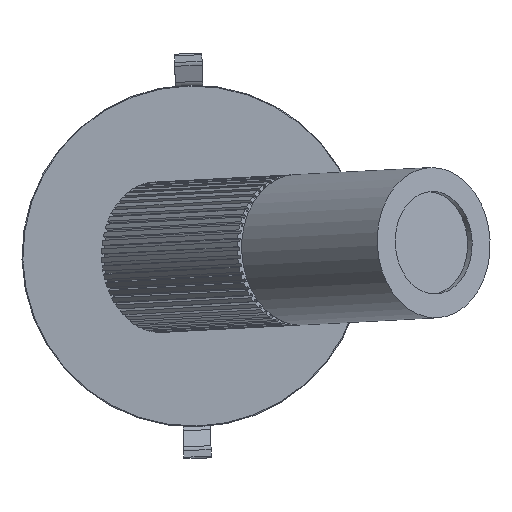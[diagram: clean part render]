
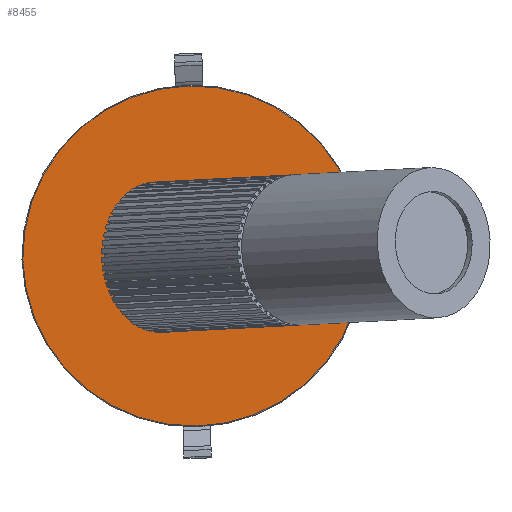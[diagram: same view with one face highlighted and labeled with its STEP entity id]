
A CAD part, front view. The second image highlights one B-rep face of the part: STEP entity #8455.
In plain terms, the highlighted planar face has unit normal (0, -1, 0).
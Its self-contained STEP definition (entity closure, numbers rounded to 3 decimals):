
#325 = DIRECTION ( 'NONE',  ( 0., 1., 0. ) ) ;
#601 = VERTEX_POINT ( 'NONE', #7043 ) ;
#1136 = PLANE ( 'NONE',  #14771 ) ;
#1240 = DIRECTION ( 'NONE',  ( 0., 1., 0. ) ) ;
#1267 = CARTESIAN_POINT ( 'NONE',  ( 0., 0., 0. ) ) ;
#1576 = AXIS2_PLACEMENT_3D ( 'NONE', #18375, #11352, #22253 ) ;
#1733 = CIRCLE ( 'NONE', #12541, 49.75 ) ;
#2725 = EDGE_CURVE ( 'NONE', #6115, #601, #12718, .T. ) ;
#2945 = DIRECTION ( 'NONE',  ( 0., 0., 1. ) ) ;
#4716 = EDGE_CURVE ( 'NONE', #601, #6115, #5824, .T. ) ;
#4981 = VERTEX_POINT ( 'NONE', #23399 ) ;
#5824 = CIRCLE ( 'NONE', #19337, 5. ) ;
#6115 = VERTEX_POINT ( 'NONE', #23550 ) ;
#6725 = DIRECTION ( 'NONE',  ( 0., 1., 0. ) ) ;
#6867 = EDGE_CURVE ( 'NONE', #21917, #4981, #11626, .T. ) ;
#6923 = DIRECTION ( 'NONE',  ( 0., -1., 0. ) ) ;
#7043 = CARTESIAN_POINT ( 'NONE',  ( 0., 0., 5. ) ) ;
#7711 = DIRECTION ( 'NONE',  ( 0., 0., 1. ) ) ;
#8258 = ORIENTED_EDGE ( 'NONE', *, *, #2725, .T. ) ;
#8455 = ADVANCED_FACE ( 'NONE', ( #19913, #10348 ), #1136, .F. ) ;
#8726 = DIRECTION ( 'NONE',  ( 0., 0., 1. ) ) ;
#9840 = CARTESIAN_POINT ( 'NONE',  ( 0., 0., 49.75 ) ) ;
#10348 = FACE_BOUND ( 'NONE', #10896, .T. ) ;
#10511 = EDGE_CURVE ( 'NONE', #4981, #21917, #1733, .T. ) ;
#10896 = EDGE_LOOP ( 'NONE', ( #8258, #18643 ) ) ;
#11352 = DIRECTION ( 'NONE',  ( 0., -1., 0. ) ) ;
#11626 = CIRCLE ( 'NONE', #1576, 49.75 ) ;
#11902 = CARTESIAN_POINT ( 'NONE',  ( 0., 0., 0. ) ) ;
#12541 = AXIS2_PLACEMENT_3D ( 'NONE', #14292, #6923, #8726 ) ;
#12666 = ORIENTED_EDGE ( 'NONE', *, *, #10511, .T. ) ;
#12718 = CIRCLE ( 'NONE', #14650, 5. ) ;
#13181 = ORIENTED_EDGE ( 'NONE', *, *, #6867, .T. ) ;
#14292 = CARTESIAN_POINT ( 'NONE',  ( 0., 0., 0. ) ) ;
#14650 = AXIS2_PLACEMENT_3D ( 'NONE', #11902, #1240, #2945 ) ;
#14771 = AXIS2_PLACEMENT_3D ( 'NONE', #1267, #6725, #15909 ) ;
#15909 = DIRECTION ( 'NONE',  ( 0., 0., 1. ) ) ;
#16901 = CARTESIAN_POINT ( 'NONE',  ( 0., 0., 0. ) ) ;
#18375 = CARTESIAN_POINT ( 'NONE',  ( 0., 0., 0. ) ) ;
#18643 = ORIENTED_EDGE ( 'NONE', *, *, #4716, .T. ) ;
#18750 = EDGE_LOOP ( 'NONE', ( #13181, #12666 ) ) ;
#19337 = AXIS2_PLACEMENT_3D ( 'NONE', #16901, #325, #7711 ) ;
#19913 = FACE_OUTER_BOUND ( 'NONE', #18750, .T. ) ;
#21917 = VERTEX_POINT ( 'NONE', #9840 ) ;
#22253 = DIRECTION ( 'NONE',  ( 0., 0., 1. ) ) ;
#23399 = CARTESIAN_POINT ( 'NONE',  ( 0., 0., -49.75 ) ) ;
#23550 = CARTESIAN_POINT ( 'NONE',  ( 0., 0., -5. ) ) ;
